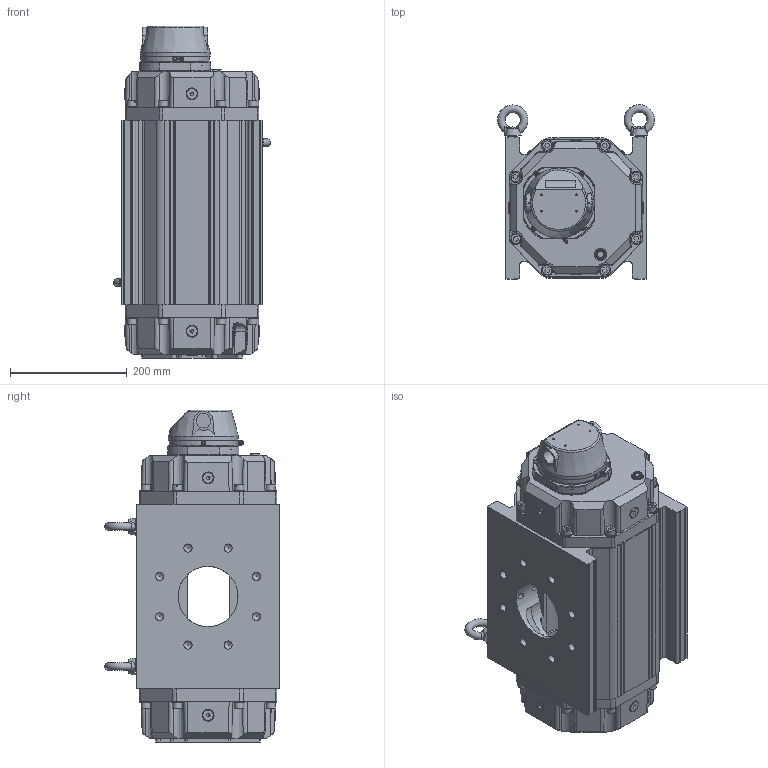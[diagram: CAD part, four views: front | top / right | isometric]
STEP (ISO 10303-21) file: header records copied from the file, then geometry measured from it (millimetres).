
FILE_DESCRIPTION(('STEP AP203'), '1');
FILE_NAME('G250-DN100', '2024-02-08T15:36:03', (''), (''), 'C3D Converter', 'C3D Toolkit', '');
FILE_SCHEMA(('CONFIG_CONTROL_DESIGN'));
Length unit declared in the file: millimetre
Products named in the file (1): G250
Bounding box: 269.13 x 299.1 x 569.5 mm (x, y, z)
Volume: 12150635.2 mm3; surface area: 1076168.2 mm2
Topology: 5 solids, 5 shells, 1562 faces, 3915 edges, 2444 vertices
Faces by surface type: plane 645, cylinder 424, bspline 192, cone 187, torus 112, sphere 2
Full cylindrical faces by diameter (mm): 2 x12, 2.05 x2, 2.5 x8, 3 x4, 3.175 x1, 3.2 x1, 3.3 x1, 4.2 x4, 4.5 x1, 5.2 x4, 5.774 x9, 6.2 x1, 6.3 x1, 6.35 x4, 7.8 x4, 8 x4, 8.3 x1, 8.4 x1, 8.5 x8, 9 x1, 9.4 x4, 10 x3, 10.2 x2, 10.5 x1, 11 x9, 11.125 x2, 12 x2, 13.096 x13, 14 x18, 15 x1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
Entity records: 89679 total; most frequent: CARTESIAN_POINT 43625, ORIENTED_EDGE 6892, DIRECTION 6387, EDGE_CURVE 3446, AXIS2_PLACEMENT_3D 2521, VERTEX_POINT 2385, EDGE_LOOP 2107, FACE_BOUND 1600
